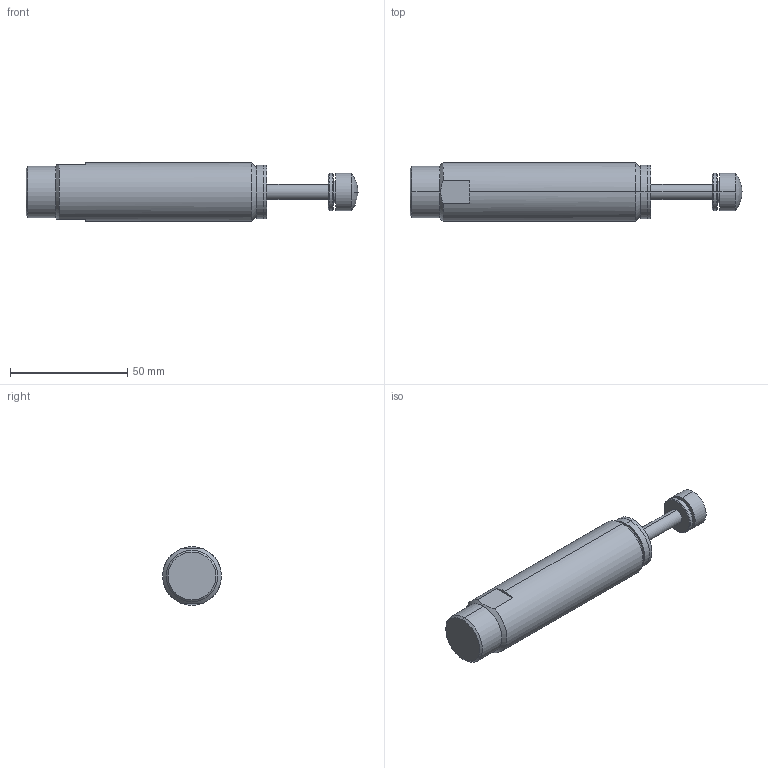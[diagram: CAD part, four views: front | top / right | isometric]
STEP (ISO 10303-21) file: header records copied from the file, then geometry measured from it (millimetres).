
FILE_DESCRIPTION (( 'STEP AP214' ), '1' );
FILE_NAME ('ES18212.STEP', '2019-12-05T08:09:44', ( 'user' ), ( 'Microsoft' ), 'SwSTEP 2.0', 'SolidWorks 2016', '' );
FILE_SCHEMA (( 'AUTOMOTIVE_DESIGN' ));
Length unit declared in the file: millimetre
Products named in the file (1): ES18212
Bounding box: 141.4 x 25 x 25 mm (x, y, z)
Volume: 51079.4 mm3; surface area: 13437 mm2
Topology: 9 solids, 9 shells, 51 faces, 89 edges, 56 vertices
Faces by surface type: plane 21, cylinder 16, cone 10, torus 2, sphere 2
Entity records: 1362 total; most frequent: DIRECTION 242, CARTESIAN_POINT 225, ORIENTED_EDGE 178, AXIS2_PLACEMENT_3D 105, EDGE_CURVE 89, VERTEX_POINT 56, CIRCLE 53, ADVANCED_FACE 51
